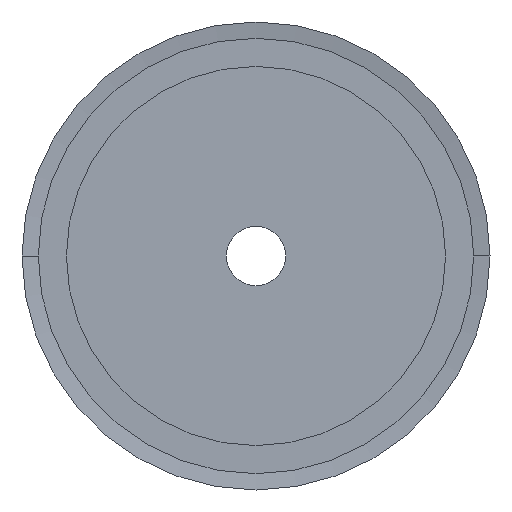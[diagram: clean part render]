
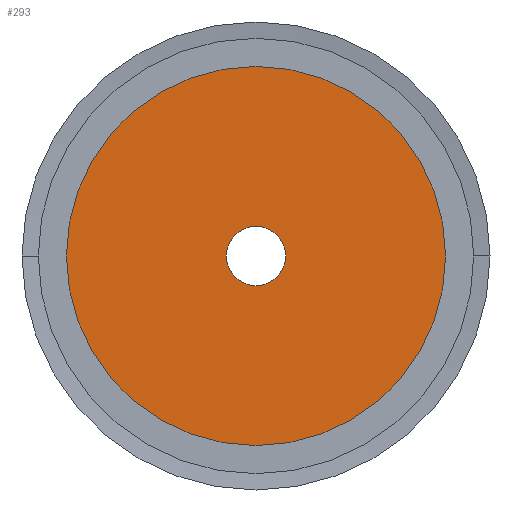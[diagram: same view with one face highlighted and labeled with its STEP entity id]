
A CAD part, left-side view. The second image highlights one B-rep face of the part: STEP entity #293.
In plain terms, the highlighted planar face has unit normal (-1, 0, 0).
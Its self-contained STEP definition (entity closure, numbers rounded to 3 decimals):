
#293 = ADVANCED_FACE( '', ( #737, #738 ), #739, .T. );
#737 = FACE_BOUND( '', #1182, .T. );
#738 = FACE_OUTER_BOUND( '', #1183, .T. );
#739 = PLANE( '', #1184 );
#1182 = EDGE_LOOP( '', ( #3091, #3092 ) );
#1183 = EDGE_LOOP( '', ( #3093, #3094 ) );
#1184 = AXIS2_PLACEMENT_3D( '', #3095, #3096, #3097 );
#3091 = ORIENTED_EDGE( '', *, *, #3137, .T. );
#3092 = ORIENTED_EDGE( '', *, *, #3133, .T. );
#3093 = ORIENTED_EDGE( '', *, *, #3101, .T. );
#3094 = ORIENTED_EDGE( '', *, *, #3725, .T. );
#3095 = CARTESIAN_POINT( '', ( 0., 16., 0. ) );
#3096 = DIRECTION( '', ( -1., 0., 0. ) );
#3097 = DIRECTION( '', ( 0., 1., 0. ) );
#3101 = EDGE_CURVE( '', #3727, #3731, #3733, .T. );
#3133 = EDGE_CURVE( '', #3791, #3788, #3792, .T. );
#3137 = EDGE_CURVE( '', #3788, #3791, #3797, .T. );
#3725 = EDGE_CURVE( '', #3731, #3727, #4769, .T. );
#3727 = VERTEX_POINT( '', #4771 );
#3731 = VERTEX_POINT( '', #4776 );
#3733 = CIRCLE( '', #4779, 32. );
#3788 = VERTEX_POINT( '', #4850 );
#3791 = VERTEX_POINT( '', #4854 );
#3792 = CIRCLE( '', #4855, 5. );
#3797 = CIRCLE( '', #4861, 5. );
#4769 = CIRCLE( '', #6169, 32. );
#4771 = CARTESIAN_POINT( '', ( 0., 32., 0. ) );
#4776 = CARTESIAN_POINT( '', ( 0., -32., 0. ) );
#4779 = AXIS2_PLACEMENT_3D( '', #6175, #6176, #6177 );
#4850 = CARTESIAN_POINT( '', ( 0., 5., 0. ) );
#4854 = CARTESIAN_POINT( '', ( 0., -5., 0. ) );
#4855 = AXIS2_PLACEMENT_3D( '', #6237, #6238, #6239 );
#4861 = AXIS2_PLACEMENT_3D( '', #6247, #6248, #6249 );
#6169 = AXIS2_PLACEMENT_3D( '', #7339, #7340, #7341 );
#6175 = CARTESIAN_POINT( '', ( 0., 0., 0. ) );
#6176 = DIRECTION( '', ( -1., 0., 0. ) );
#6177 = DIRECTION( '', ( 0., 1., 0. ) );
#6237 = CARTESIAN_POINT( '', ( 0., 0., 0. ) );
#6238 = DIRECTION( '', ( 1., 0., 0. ) );
#6239 = DIRECTION( '', ( 0., 1., 0. ) );
#6247 = CARTESIAN_POINT( '', ( 0., 0., 0. ) );
#6248 = DIRECTION( '', ( 1., 0., 0. ) );
#6249 = DIRECTION( '', ( 0., 1., 0. ) );
#7339 = CARTESIAN_POINT( '', ( 0., 0., 0. ) );
#7340 = DIRECTION( '', ( -1., 0., 0. ) );
#7341 = DIRECTION( '', ( 0., 1., 0. ) );
